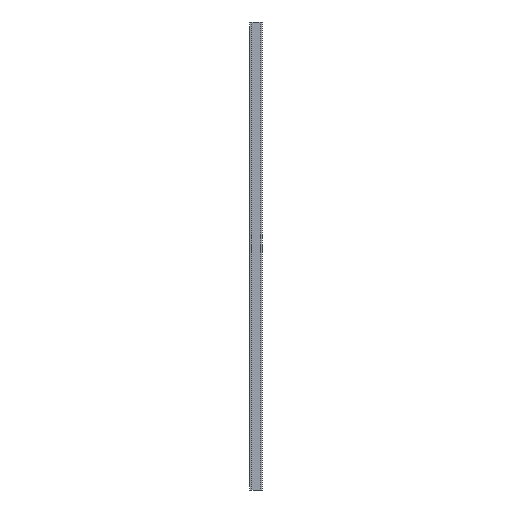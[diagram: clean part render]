
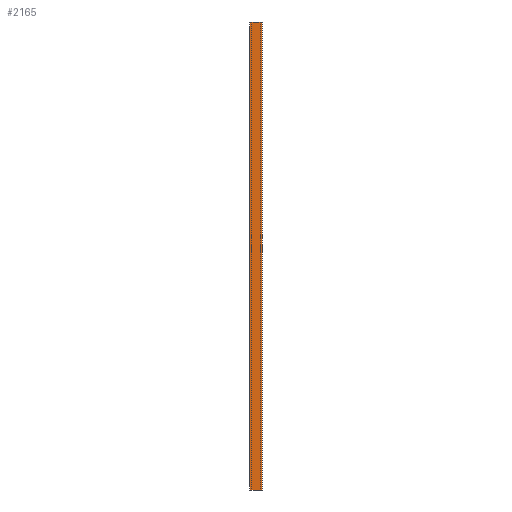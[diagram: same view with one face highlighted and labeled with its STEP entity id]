
A CAD part, left-side view. The second image highlights one B-rep face of the part: STEP entity #2165.
In plain terms, the highlighted planar face has unit normal (-1, 0, 0).
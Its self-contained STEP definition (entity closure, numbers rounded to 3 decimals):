
#37 = EDGE_CURVE ( 'NONE', #2425, #162, #2441, .T. ) ;
#127 = CARTESIAN_POINT ( 'NONE',  ( -8., 9.3, 479. ) ) ;
#155 = VECTOR ( 'NONE', #1285, 1000. ) ;
#162 = VERTEX_POINT ( 'NONE', #246 ) ;
#197 = VERTEX_POINT ( 'NONE', #1758 ) ;
#246 = CARTESIAN_POINT ( 'NONE',  ( -8., 0., 479. ) ) ;
#310 = LINE ( 'NONE', #1167, #725 ) ;
#333 = ORIENTED_EDGE ( 'NONE', *, *, #2715, .F. ) ;
#347 = EDGE_CURVE ( 'NONE', #2425, #631, #565, .T. ) ;
#349 = EDGE_LOOP ( 'NONE', ( #920, #2405, #333, #728, #636, #1808, #834, #2726 ) ) ;
#565 = LINE ( 'NONE', #2296, #2748 ) ;
#610 = DIRECTION ( 'NONE',  ( 0., 0., -1. ) ) ;
#631 = VERTEX_POINT ( 'NONE', #127 ) ;
#636 = ORIENTED_EDGE ( 'NONE', *, *, #347, .T. ) ;
#638 = CARTESIAN_POINT ( 'NONE',  ( -8., 3.2, 0. ) ) ;
#690 = PLANE ( 'NONE',  #775 ) ;
#725 = VECTOR ( 'NONE', #2028, 1000. ) ;
#728 = ORIENTED_EDGE ( 'NONE', *, *, #37, .F. ) ;
#734 = DIRECTION ( 'NONE',  ( -1., 0., 0. ) ) ;
#775 = AXIS2_PLACEMENT_3D ( 'NONE', #921, #734, #1968 ) ;
#795 = VECTOR ( 'NONE', #1615, 1000. ) ;
#834 = ORIENTED_EDGE ( 'NONE', *, *, #1937, .T. ) ;
#920 = ORIENTED_EDGE ( 'NONE', *, *, #1591, .F. ) ;
#921 = CARTESIAN_POINT ( 'NONE',  ( -8., 0., 479. ) ) ;
#942 = VECTOR ( 'NONE', #610, 1000. ) ;
#947 = CARTESIAN_POINT ( 'NONE',  ( -8., 0., 479. ) ) ;
#1052 = DIRECTION ( 'NONE',  ( 0., 1., 0. ) ) ;
#1167 = CARTESIAN_POINT ( 'NONE',  ( -8., 12.5, 479. ) ) ;
#1235 = CARTESIAN_POINT ( 'NONE',  ( -8., 0., 0. ) ) ;
#1249 = CARTESIAN_POINT ( 'NONE',  ( -8., 0., 0. ) ) ;
#1260 = CARTESIAN_POINT ( 'NONE',  ( -8., 0., 0. ) ) ;
#1285 = DIRECTION ( 'NONE',  ( 0., -1., 0. ) ) ;
#1393 = LINE ( 'NONE', #1656, #795 ) ;
#1397 = VERTEX_POINT ( 'NONE', #1910 ) ;
#1398 = VECTOR ( 'NONE', #1052, 1000. ) ;
#1419 = VERTEX_POINT ( 'NONE', #1559 ) ;
#1537 = LINE ( 'NONE', #1249, #1398 ) ;
#1559 = CARTESIAN_POINT ( 'NONE',  ( -8., 12.5, 0. ) ) ;
#1566 = VERTEX_POINT ( 'NONE', #1235 ) ;
#1591 = EDGE_CURVE ( 'NONE', #2352, #197, #1393, .T. ) ;
#1598 = FACE_OUTER_BOUND ( 'NONE', #349, .T. ) ;
#1615 = DIRECTION ( 'NONE',  ( 0., 1., 0. ) ) ;
#1656 = CARTESIAN_POINT ( 'NONE',  ( -8., 0., 0. ) ) ;
#1758 = CARTESIAN_POINT ( 'NONE',  ( -8., 9.3, 0. ) ) ;
#1780 = DIRECTION ( 'NONE',  ( 0., -1., 0. ) ) ;
#1782 = CARTESIAN_POINT ( 'NONE',  ( -8., 3.2, 479. ) ) ;
#1808 = ORIENTED_EDGE ( 'NONE', *, *, #2211, .T. ) ;
#1910 = CARTESIAN_POINT ( 'NONE',  ( -8., 12.5, 479. ) ) ;
#1937 = EDGE_CURVE ( 'NONE', #1397, #1419, #2286, .T. ) ;
#1968 = DIRECTION ( 'NONE',  ( 0., 0., 1. ) ) ;
#2013 = LINE ( 'NONE', #2199, #2710 ) ;
#2028 = DIRECTION ( 'NONE',  ( 0., 1., 0. ) ) ;
#2165 = ADVANCED_FACE ( 'NONE', ( #1598 ), #690, .T. ) ;
#2199 = CARTESIAN_POINT ( 'NONE',  ( -8., 0., 479. ) ) ;
#2211 = EDGE_CURVE ( 'NONE', #631, #1397, #310, .T. ) ;
#2286 = LINE ( 'NONE', #2508, #942 ) ;
#2296 = CARTESIAN_POINT ( 'NONE',  ( -8., 0., 479. ) ) ;
#2320 = EDGE_CURVE ( 'NONE', #2352, #1566, #2339, .T. ) ;
#2334 = VECTOR ( 'NONE', #1780, 1000. ) ;
#2339 = LINE ( 'NONE', #1260, #155 ) ;
#2352 = VERTEX_POINT ( 'NONE', #638 ) ;
#2405 = ORIENTED_EDGE ( 'NONE', *, *, #2320, .T. ) ;
#2425 = VERTEX_POINT ( 'NONE', #1782 ) ;
#2441 = LINE ( 'NONE', #947, #2334 ) ;
#2508 = CARTESIAN_POINT ( 'NONE',  ( -8., 12.5, 479. ) ) ;
#2541 = EDGE_CURVE ( 'NONE', #197, #1419, #1537, .T. ) ;
#2640 = DIRECTION ( 'NONE',  ( 0., 0., -1. ) ) ;
#2693 = DIRECTION ( 'NONE',  ( 0., 1., 0. ) ) ;
#2710 = VECTOR ( 'NONE', #2640, 1000. ) ;
#2715 = EDGE_CURVE ( 'NONE', #162, #1566, #2013, .T. ) ;
#2726 = ORIENTED_EDGE ( 'NONE', *, *, #2541, .F. ) ;
#2748 = VECTOR ( 'NONE', #2693, 1000. ) ;
